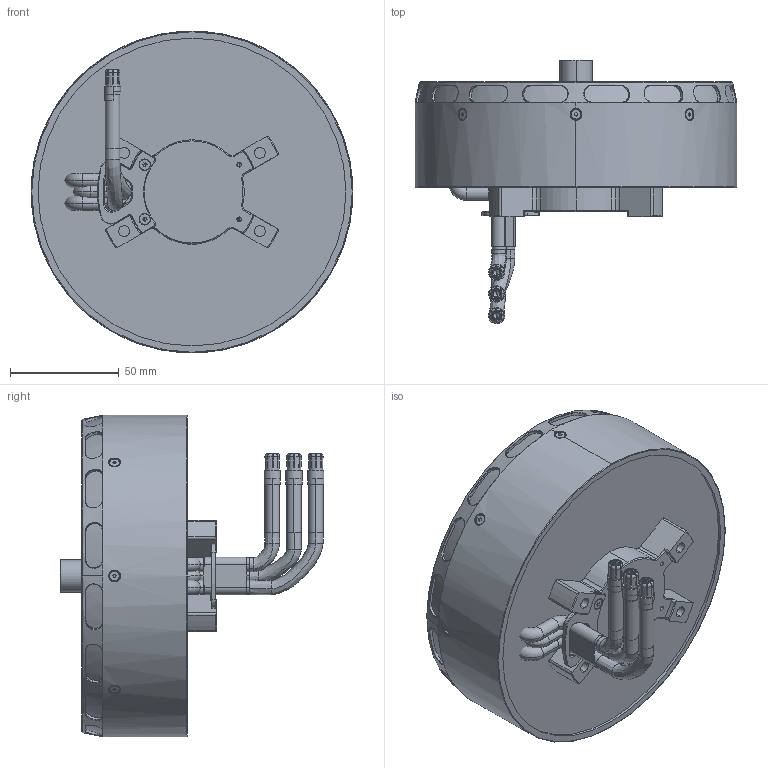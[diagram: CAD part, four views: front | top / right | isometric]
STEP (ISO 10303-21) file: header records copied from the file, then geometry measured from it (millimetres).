
FILE_DESCRIPTION (( 'STEP AP203' ), '1' );
FILE_NAME ('UAVM-X13-13825.STEP', '2023-11-03T03:47:27', ( '' ), ( '' ), 'SwSTEP 2.0', 'SolidWorks 2021', '' );
FILE_SCHEMA (( 'CONFIG_CONTROL_DESIGN' ));
Products named in the file (3): 305300127AB-UAVM-X13-13825-60KV-BLACK-G1-HW1(2023.08.19); UAVM-X13-13825; 16260002600-6.5MM踢脣-鼠芛-A1
Assembly tree (4 placements, depth 2):
  UAVM-X13-13825
    305300127AB-UAVM-X13-13825-60KV-BLACK-G1-HW1(2023.08.19)
    16260002600-6.5MM踢脣-鼠芛-A1  x3
Bounding box: 147.9 x 121.24 x 147.9 mm (x, y, z)
Volume: 852373.9 mm3; surface area: 76515.3 mm2
Topology: 25 solids, 27 shells, 1762 faces, 4619 edges, 2925 vertices
Faces by surface type: plane 870, cylinder 410, cone 227, bspline 217, torus 38
Entity records: 88035 total; most frequent: CARTESIAN_POINT 50822, ORIENTED_EDGE 8434, DIRECTION 6640, EDGE_CURVE 4217, VERTEX_POINT 2687, VECTOR 2416, LINE 2416, AXIS2_PLACEMENT_3D 2112
